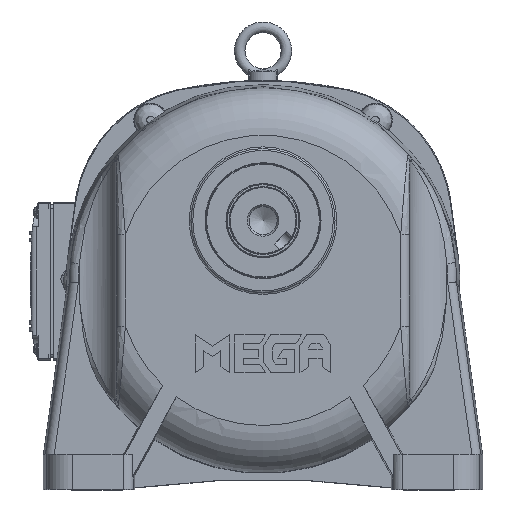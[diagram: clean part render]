
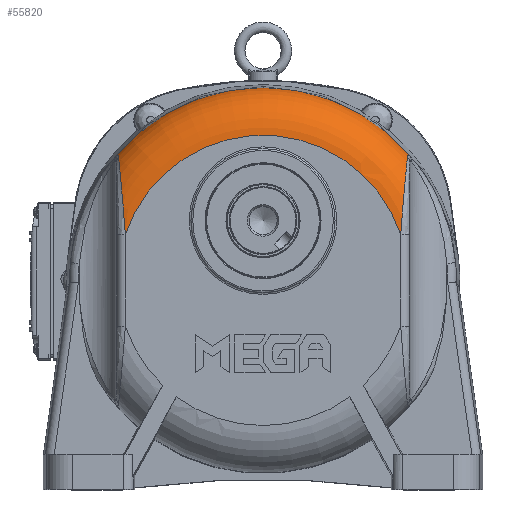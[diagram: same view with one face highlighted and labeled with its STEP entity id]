
A CAD part, top view. The second image highlights one B-rep face of the part: STEP entity #55820.
In plain terms, the highlighted toroidal (fillet/blend) face has major radius 82.608 mm and minor radius 27 mm.
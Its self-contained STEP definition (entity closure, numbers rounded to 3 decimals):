
#674=TOROIDAL_SURFACE('',#61067,82.608,27.);
#11511=FACE_OUTER_BOUND('',#14828,.T.);
#14828=EDGE_LOOP('',(#46208,#46209,#46210,#46211,#46212,#46213));
#18075=CIRCLE('',#60955,109.599);
#18079=CIRCLE('',#61019,82.608);
#20282=B_SPLINE_CURVE_WITH_KNOTS('',3,(#122108,#122109,#122110,#122111,
#122112,#122113,#122114,#122115),.UNSPECIFIED.,.F.,.F.,(4,1,1,1,1,4),(-14.257,
-13.611,-12.965,-11.673,-11.027,
-9.735),.UNSPECIFIED.);
#20283=B_SPLINE_CURVE_WITH_KNOTS('',3,(#122138,#122139,#122140,#122141,
#122142),.UNSPECIFIED.,.F.,.F.,(4,1,4),(-0.728,-0.312,
0.),.UNSPECIFIED.);
#20287=B_SPLINE_CURVE_WITH_KNOTS('',3,(#122272,#122273,#122274,#122275,
#122276),.UNSPECIFIED.,.F.,.F.,(4,1,4),(-0.729,-0.416,
0.),.UNSPECIFIED.);
#20288=B_SPLINE_CURVE_WITH_KNOTS('',3,(#122277,#122278,#122279,#122280,
#122281,#122282,#122283,#122284,#122285),.UNSPECIFIED.,.F.,.F.,(4,1,1,1,
1,1,4),(-4.523,-3.23,-2.584,-1.615,
-1.292,-0.646,0.),
 .UNSPECIFIED.);
#24392=VERTEX_POINT('',#121184);
#24393=VERTEX_POINT('',#121196);
#24508=VERTEX_POINT('',#121684);
#24510=VERTEX_POINT('',#121687);
#24551=VERTEX_POINT('',#122106);
#24559=VERTEX_POINT('',#122271);
#31781=EDGE_CURVE('',#24392,#24393,#18075,.F.);
#31954=EDGE_CURVE('',#24510,#24508,#18079,.T.);
#32014=EDGE_CURVE('',#24551,#24508,#20282,.T.);
#32016=EDGE_CURVE('',#24393,#24551,#20283,.T.);
#32028=EDGE_CURVE('',#24559,#24392,#20287,.T.);
#32029=EDGE_CURVE('',#24510,#24559,#20288,.T.);
#46208=ORIENTED_EDGE('',*,*,#32014,.F.);
#46209=ORIENTED_EDGE('',*,*,#32016,.F.);
#46210=ORIENTED_EDGE('',*,*,#31781,.F.);
#46211=ORIENTED_EDGE('',*,*,#32028,.F.);
#46212=ORIENTED_EDGE('',*,*,#32029,.F.);
#46213=ORIENTED_EDGE('',*,*,#31954,.T.);
#55820=ADVANCED_FACE('',(#11511),#674,.T.);
#60955=AXIS2_PLACEMENT_3D('',#121197,#73212,#73213);
#61019=AXIS2_PLACEMENT_3D('',#121688,#73503,#73504);
#61067=AXIS2_PLACEMENT_3D('',#122270,#73626,#73627);
#73212=DIRECTION('center_axis',(0.,0.,1.));
#73213=DIRECTION('ref_axis',(-1.,0.,0.));
#73503=DIRECTION('center_axis',(0.,0.,-1.));
#73504=DIRECTION('ref_axis',(-1.,0.,0.));
#73626=DIRECTION('center_axis',(0.,0.,-1.));
#73627=DIRECTION('ref_axis',(-1.,0.,0.));
#121184=CARTESIAN_POINT('',(-94.64,76.247,62.707));
#121196=CARTESIAN_POINT('',(72.417,76.247,62.707));
#121197=CARTESIAN_POINT('Origin',(-11.111,5.291,62.707));
#121684=CARTESIAN_POINT('',(67.277,31.355,89.));
#121687=CARTESIAN_POINT('',(-89.499,31.355,89.));
#121688=CARTESIAN_POINT('Origin',(-11.111,5.291,89.));
#122106=CARTESIAN_POINT('',(71.106,75.275,71.261));
#122108=CARTESIAN_POINT('Ctrl Pts',(71.106,75.275,71.261));
#122109=CARTESIAN_POINT('Ctrl Pts',(70.976,74.12,73.584));
#122110=CARTESIAN_POINT('Ctrl Pts',(70.656,70.99,77.747));
#122111=CARTESIAN_POINT('Ctrl Pts',(69.899,63.018,83.745));
#122112=CARTESIAN_POINT('Ctrl Pts',(69.066,53.849,86.924));
#122113=CARTESIAN_POINT('Ctrl Pts',(68.095,42.529,88.774));
#122114=CARTESIAN_POINT('Ctrl Pts',(67.571,35.77,89.));
#122115=CARTESIAN_POINT('Ctrl Pts',(67.277,31.355,89.));
#122138=CARTESIAN_POINT('Ctrl Pts',(72.417,76.247,62.707));
#122139=CARTESIAN_POINT('Ctrl Pts',(72.015,76.658,64.271));
#122140=CARTESIAN_POINT('Ctrl Pts',(71.428,76.824,67.263));
#122141=CARTESIAN_POINT('Ctrl Pts',(71.169,75.834,70.139));
#122142=CARTESIAN_POINT('Ctrl Pts',(71.106,75.275,71.261));
#122270=CARTESIAN_POINT('Origin',(-11.111,5.291,62.));
#122271=CARTESIAN_POINT('',(-93.328,75.275,71.261));
#122272=CARTESIAN_POINT('Ctrl Pts',(-93.328,75.275,71.261));
#122273=CARTESIAN_POINT('Ctrl Pts',(-93.391,75.834,70.139));
#122274=CARTESIAN_POINT('Ctrl Pts',(-93.644,76.819,
67.303));
#122275=CARTESIAN_POINT('Ctrl Pts',(-94.237,76.658,
64.271));
#122276=CARTESIAN_POINT('Ctrl Pts',(-94.64,76.247,
62.707));
#122277=CARTESIAN_POINT('Ctrl Pts',(-89.499,31.355,
89.));
#122278=CARTESIAN_POINT('Ctrl Pts',(-89.793,35.766,
89.));
#122279=CARTESIAN_POINT('Ctrl Pts',(-90.312,42.463,
88.783));
#122280=CARTESIAN_POINT('Ctrl Pts',(-91.193,52.74,
87.102));
#122281=CARTESIAN_POINT('Ctrl Pts',(-91.806,59.538,
84.949));
#122282=CARTESIAN_POINT('Ctrl Pts',(-92.403,65.991,
81.509));
#122283=CARTESIAN_POINT('Ctrl Pts',(-92.877,70.979,
77.758));
#122284=CARTESIAN_POINT('Ctrl Pts',(-93.198,74.12,73.584));
#122285=CARTESIAN_POINT('Ctrl Pts',(-93.328,75.275,
71.261));
